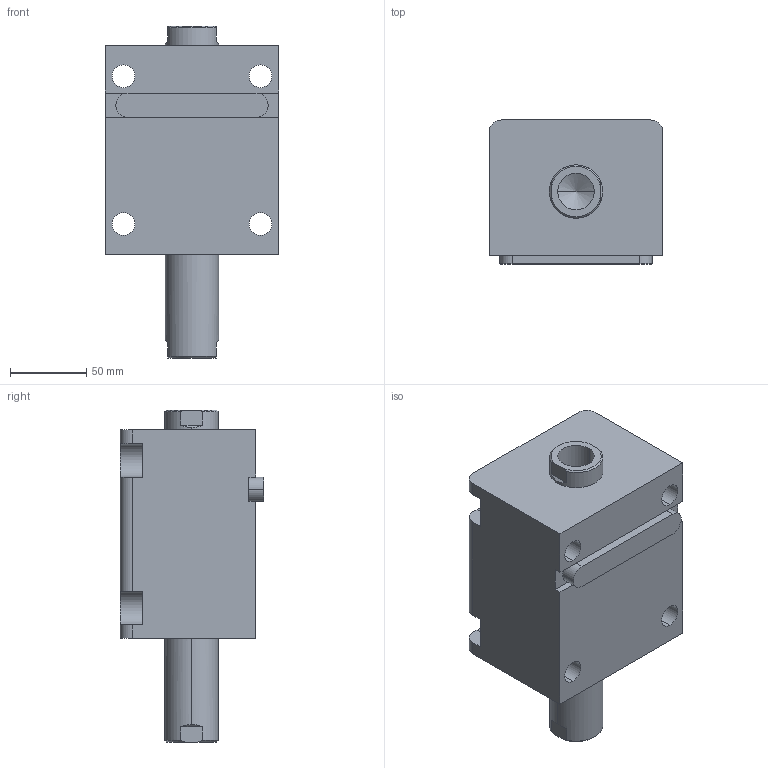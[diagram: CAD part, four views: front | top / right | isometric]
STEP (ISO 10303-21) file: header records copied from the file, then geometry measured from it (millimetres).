
FILE_DESCRIPTION (( 'STEP AP203' ), '1' );
FILE_NAME ('HTB-LW63-55N.STEP', '2019-10-09T08:27:06', ( '微软用户' ), ( '微软中国' ), 'SwSTEP 2.0', 'SolidWorks 2012', '' );
FILE_SCHEMA (( 'CONFIG_CONTROL_DESIGN' ));
Length unit declared in the file: millimetre
Products named in the file (4): HTB-LW63-55N; HTB-LA63-瑩; HTB-LW63-55N活塞杆; HTB-LW63-55掛极
Assembly tree (3 placements, depth 2):
  HTB-LW63-55N
    HTB-LW63-55掛极
    HTB-LW63-55N活塞杆
    HTB-LA63-瑩
Bounding box: 114 x 94.5 x 218 mm (x, y, z)
Volume: 1234596.3 mm3; surface area: 158361.5 mm2
Topology: 3 solids, 3 shells, 101 faces, 253 edges, 164 vertices
Faces by surface type: plane 44, cylinder 41, cone 12, torus 4
Entity records: 3467 total; most frequent: CARTESIAN_POINT 576, DIRECTION 549, ORIENTED_EDGE 498, EDGE_CURVE 249, AXIS2_PLACEMENT_3D 209, VERTEX_POINT 164, LINE 131, VECTOR 131
